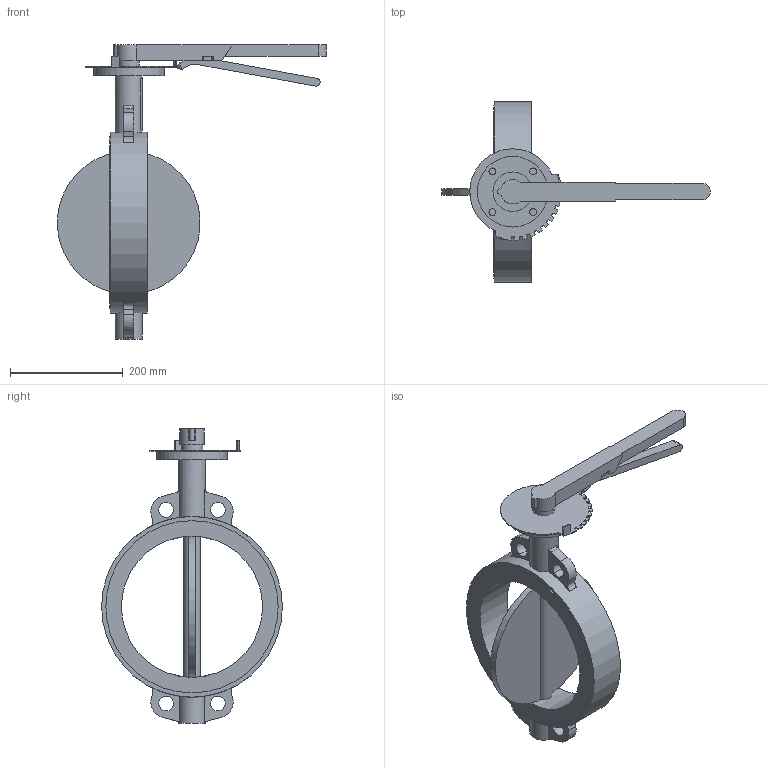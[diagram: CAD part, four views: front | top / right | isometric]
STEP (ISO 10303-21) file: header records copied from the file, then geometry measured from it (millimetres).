
FILE_DESCRIPTION(('STEP AP203'), '1');
FILE_NAME('青蜮铕 015WDN250', '', ('UNSPECIFIED'), ('UNSPECIFIED'), 'ASCON STEP Converter 1.6', 'ASCON Math Kernel', '');
FILE_SCHEMA(('CONFIG_CONTROL_DESIGN'));
Length unit declared in the file: millimetre
Bounding box: 476.07 x 320 x 521 mm (x, y, z)
Volume: 392465.6 mm3; surface area: 466794.6 mm2
Topology: 1 solids, 2 shells, 782 faces, 2312 edges, 1494 vertices
Faces by surface type: cylinder 537, plane 239, bspline 6
Full cylindrical faces by diameter (mm): 12 x4, 28.6 x1, 38 x1, 48 x2, 70 x1, 125 x1, 250 x1, 305 x2, 320 x1
Entity records: 34228 total; most frequent: CARTESIAN_POINT 6088, DIRECTION 4943, ORIENTED_EDGE 4531, EDGE_CURVE 2297, AXIS2_PLACEMENT_3D 1907, VERTEX_POINT 1493, CIRCLE 1130, LINE 1129
